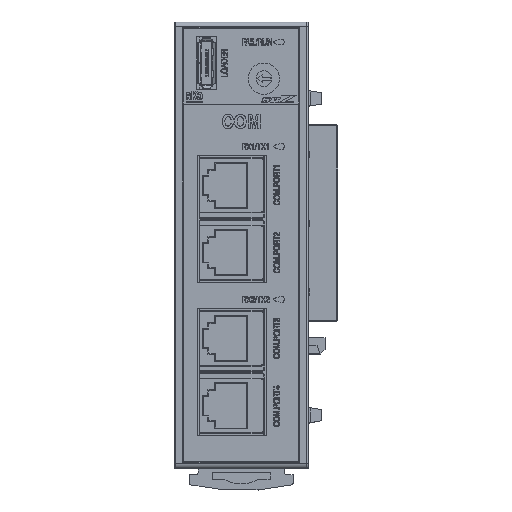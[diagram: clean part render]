
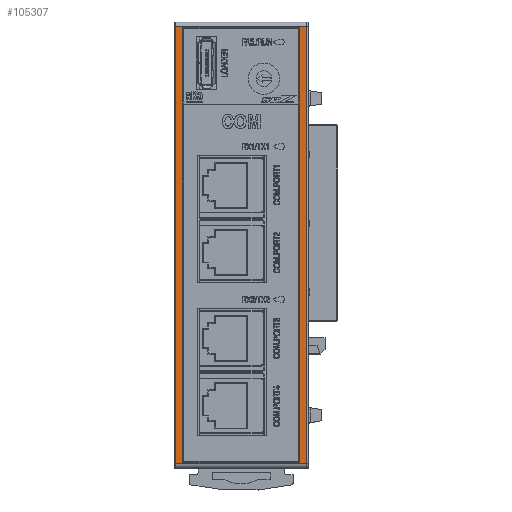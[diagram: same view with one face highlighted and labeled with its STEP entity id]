
A CAD part, top view. The second image highlights one B-rep face of the part: STEP entity #105307.
In plain terms, the highlighted planar face has unit normal (0, 0, 1).
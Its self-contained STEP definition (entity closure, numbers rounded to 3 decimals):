
#8514 = VECTOR ( 'NONE', #62685, 1000. ) ;
#8650 = FACE_BOUND ( 'NONE', #136028, .T. ) ;
#11452 = CARTESIAN_POINT ( 'NONE',  ( 13.05, -48.7, 76.85 ) ) ;
#11544 = EDGE_CURVE ( 'NONE', #45939, #141239, #91163, .T. ) ;
#11646 = LINE ( 'NONE', #84410, #128898 ) ;
#11895 = CARTESIAN_POINT ( 'NONE',  ( 15., -49., 76.85 ) ) ;
#17586 = ORIENTED_EDGE ( 'NONE', *, *, #105869, .T. ) ;
#18456 = DIRECTION ( 'NONE',  ( 0., 1., 0. ) ) ;
#20357 = VECTOR ( 'NONE', #94315, 1000. ) ;
#20960 = VECTOR ( 'NONE', #18456, 1000. ) ;
#22982 = EDGE_CURVE ( 'NONE', #116416, #77426, #50460, .T. ) ;
#30261 = AXIS2_PLACEMENT_3D ( 'NONE', #119539, #73794, #142331 ) ;
#30701 = VECTOR ( 'NONE', #138317, 1000. ) ;
#32846 = VECTOR ( 'NONE', #136047, 1000. ) ;
#33197 = CARTESIAN_POINT ( 'NONE',  ( 14.75, 49., 76.85 ) ) ;
#33471 = CARTESIAN_POINT ( 'NONE',  ( -13.05, 48.7, 76.85 ) ) ;
#35408 = VECTOR ( 'NONE', #144983, 1000. ) ;
#38802 = FACE_OUTER_BOUND ( 'NONE', #68158, .T. ) ;
#39166 = DIRECTION ( 'NONE',  ( 1., 0., 0. ) ) ;
#45939 = VERTEX_POINT ( 'NONE', #58929 ) ;
#50460 = LINE ( 'NONE', #139557, #20357 ) ;
#50831 = VECTOR ( 'NONE', #63374, 1000. ) ;
#51214 = CARTESIAN_POINT ( 'NONE',  ( 13.05, -48.7, 76.85 ) ) ;
#51925 = CARTESIAN_POINT ( 'NONE',  ( -13.05, -48.7, 76.85 ) ) ;
#53275 = ORIENTED_EDGE ( 'NONE', *, *, #95794, .T. ) ;
#54856 = ORIENTED_EDGE ( 'NONE', *, *, #64271, .T. ) ;
#58929 = CARTESIAN_POINT ( 'NONE',  ( 13.05, 48.7, 76.85 ) ) ;
#60249 = ORIENTED_EDGE ( 'NONE', *, *, #100291, .T. ) ;
#61775 = LINE ( 'NONE', #51214, #8514 ) ;
#62635 = ORIENTED_EDGE ( 'NONE', *, *, #107605, .T. ) ;
#62685 = DIRECTION ( 'NONE',  ( -1., 0., 0. ) ) ;
#63374 = DIRECTION ( 'NONE',  ( 0., 1., 0. ) ) ;
#64271 = EDGE_CURVE ( 'NONE', #111566, #116416, #107986, .T. ) ;
#68158 = EDGE_LOOP ( 'NONE', ( #78453, #60249, #62635, #54856 ) ) ;
#72329 = ORIENTED_EDGE ( 'NONE', *, *, #11544, .T. ) ;
#73060 = CARTESIAN_POINT ( 'NONE',  ( -13.05, -48.7, 76.85 ) ) ;
#73794 = DIRECTION ( 'NONE',  ( 0., 0., 1. ) ) ;
#77426 = VERTEX_POINT ( 'NONE', #105162 ) ;
#77587 = EDGE_CURVE ( 'NONE', #81225, #137583, #141536, .T. ) ;
#78453 = ORIENTED_EDGE ( 'NONE', *, *, #22982, .T. ) ;
#81225 = VERTEX_POINT ( 'NONE', #73060 ) ;
#84410 = CARTESIAN_POINT ( 'NONE',  ( -13.05, 48.7, 76.85 ) ) ;
#91163 = LINE ( 'NONE', #126923, #30701 ) ;
#94315 = DIRECTION ( 'NONE',  ( -1., 0., 0. ) ) ;
#95794 = EDGE_CURVE ( 'NONE', #137583, #45939, #11646, .T. ) ;
#96855 = LINE ( 'NONE', #11895, #32846 ) ;
#97894 = CARTESIAN_POINT ( 'NONE',  ( 14.75, 49., 76.85 ) ) ;
#99258 = CARTESIAN_POINT ( 'NONE',  ( -14.75, -49., 76.85 ) ) ;
#99407 = LINE ( 'NONE', #99258, #35408 ) ;
#100291 = EDGE_CURVE ( 'NONE', #77426, #135462, #99407, .T. ) ;
#105162 = CARTESIAN_POINT ( 'NONE',  ( -14.75, 49., 76.85 ) ) ;
#105307 = ADVANCED_FACE ( 'NONE', ( #38802, #8650 ), #130934, .T. ) ;
#105869 = EDGE_CURVE ( 'NONE', #141239, #81225, #61775, .T. ) ;
#106099 = CARTESIAN_POINT ( 'NONE',  ( -14.75, -49., 76.85 ) ) ;
#107605 = EDGE_CURVE ( 'NONE', #135462, #111566, #96855, .T. ) ;
#107986 = LINE ( 'NONE', #97894, #20960 ) ;
#108666 = CARTESIAN_POINT ( 'NONE',  ( 14.75, -49., 76.85 ) ) ;
#111566 = VERTEX_POINT ( 'NONE', #108666 ) ;
#116416 = VERTEX_POINT ( 'NONE', #33197 ) ;
#119539 = CARTESIAN_POINT ( 'NONE',  ( -15., -50., 76.85 ) ) ;
#122434 = ORIENTED_EDGE ( 'NONE', *, *, #77587, .T. ) ;
#126923 = CARTESIAN_POINT ( 'NONE',  ( 13.05, 48.7, 76.85 ) ) ;
#128898 = VECTOR ( 'NONE', #39166, 1000. ) ;
#130934 = PLANE ( 'NONE',  #30261 ) ;
#135462 = VERTEX_POINT ( 'NONE', #106099 ) ;
#136028 = EDGE_LOOP ( 'NONE', ( #53275, #72329, #17586, #122434 ) ) ;
#136047 = DIRECTION ( 'NONE',  ( 1., 0., 0. ) ) ;
#137583 = VERTEX_POINT ( 'NONE', #33471 ) ;
#138317 = DIRECTION ( 'NONE',  ( 0., -1., 0. ) ) ;
#139557 = CARTESIAN_POINT ( 'NONE',  ( -15., 49., 76.85 ) ) ;
#141239 = VERTEX_POINT ( 'NONE', #11452 ) ;
#141536 = LINE ( 'NONE', #51925, #50831 ) ;
#142331 = DIRECTION ( 'NONE',  ( 1., 0., 0. ) ) ;
#144983 = DIRECTION ( 'NONE',  ( 0., -1., 0. ) ) ;
